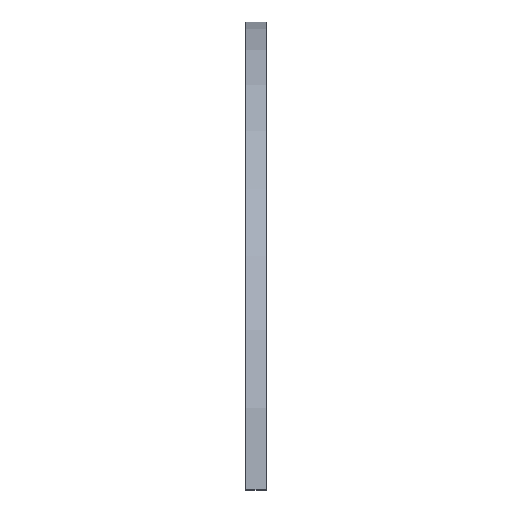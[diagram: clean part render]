
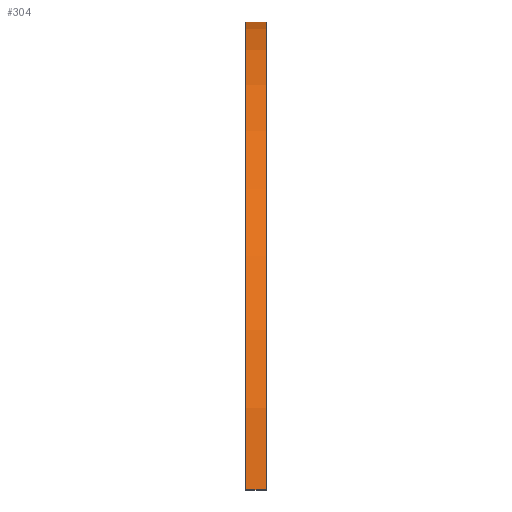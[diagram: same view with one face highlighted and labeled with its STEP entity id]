
A CAD part, left-side view. The second image highlights one B-rep face of the part: STEP entity #304.
In plain terms, the highlighted cylindrical face has radius 145 mm (diameter 290 mm), a partial arc.
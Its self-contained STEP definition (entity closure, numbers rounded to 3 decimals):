
#153=CYLINDRICAL_SURFACE('',#1793,145.);
#210=CIRCLE('',#1791,145.);
#211=CIRCLE('',#1792,145.);
#304=ADVANCED_FACE('',(#422),#153,.T.);
#422=FACE_OUTER_BOUND('',#498,.T.);
#498=EDGE_LOOP('',(#780,#781,#782,#783));
#780=ORIENTED_EDGE('',*,*,#1351,.F.);
#781=ORIENTED_EDGE('',*,*,#1352,.F.);
#782=ORIENTED_EDGE('',*,*,#1353,.T.);
#783=ORIENTED_EDGE('',*,*,#1349,.T.);
#1160=VERTEX_POINT('',#2702);
#1161=VERTEX_POINT('',#2704);
#1162=VERTEX_POINT('',#2708);
#1163=VERTEX_POINT('',#2710);
#1349=EDGE_CURVE('',#1161,#1160,#1539,.T.);
#1351=EDGE_CURVE('',#1162,#1160,#210,.T.);
#1352=EDGE_CURVE('',#1163,#1162,#1541,.T.);
#1353=EDGE_CURVE('',#1163,#1161,#211,.T.);
#1539=LINE('',#2703,#1691);
#1541=LINE('',#2709,#1693);
#1691=VECTOR('',#2186,1.);
#1693=VECTOR('',#2192,1.);
#1791=AXIS2_PLACEMENT_3D('',#2707,#2190,#2191);
#1792=AXIS2_PLACEMENT_3D('',#2711,#2193,#2194);
#1793=AXIS2_PLACEMENT_3D('',#2712,#2195,#2196);
#2186=DIRECTION('',(0.,-1.,0.));
#2190=DIRECTION('',(0.,-1.,0.));
#2191=DIRECTION('',(1.,0.,0.));
#2192=DIRECTION('',(0.,-1.,0.));
#2193=DIRECTION('',(0.,-1.,0.));
#2194=DIRECTION('',(1.,0.,0.));
#2195=DIRECTION('',(0.,-1.,0.));
#2196=DIRECTION('',(0.,0.,-1.));
#2702=CARTESIAN_POINT('',(-144.992,-130.5,1.5));
#2703=CARTESIAN_POINT('',(-144.992,-124.15,1.5));
#2704=CARTESIAN_POINT('',(-144.992,-124.15,1.5));
#2707=CARTESIAN_POINT('',(0.,-130.5,0.));
#2708=CARTESIAN_POINT('',(144.992,-130.5,1.5));
#2709=CARTESIAN_POINT('',(144.992,-124.15,1.5));
#2710=CARTESIAN_POINT('',(144.992,-124.15,1.5));
#2711=CARTESIAN_POINT('',(0.,-124.15,0.));
#2712=CARTESIAN_POINT('',(0.,-124.15,0.));
